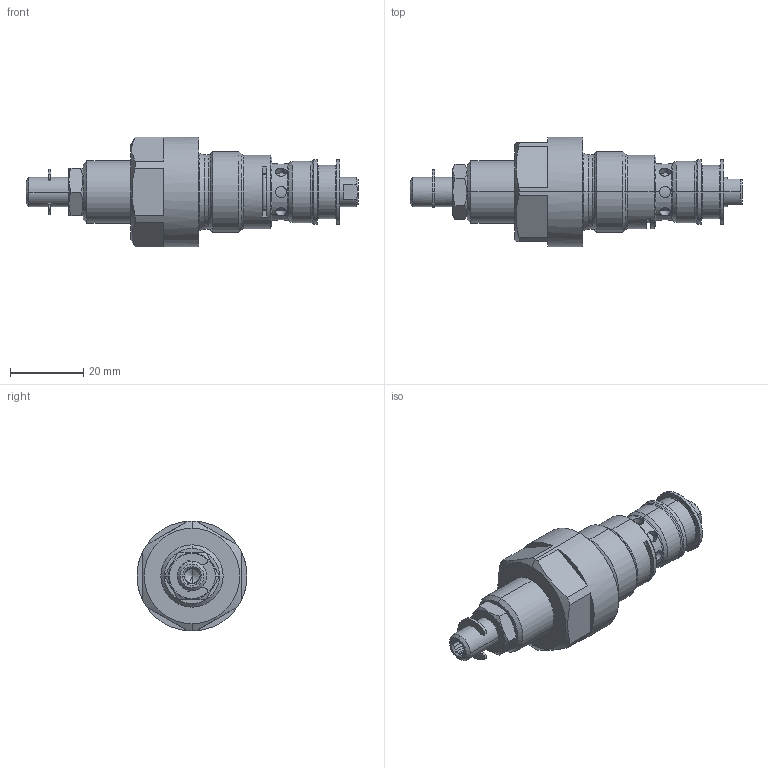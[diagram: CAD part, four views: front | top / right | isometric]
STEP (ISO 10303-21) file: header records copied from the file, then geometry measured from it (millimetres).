
FILE_DESCRIPTION (( 'STEP AP214' ), '1' );
FILE_NAME ('BASPM22-K9.STEP', '2021-03-05T10:19:20', ( '' ), ( '' ), 'SwSTEP 2.0', 'SolidWorks 2020', '' );
FILE_SCHEMA (( 'AUTOMOTIVE_DESIGN' ));
Length unit declared in the file: millimetre
Products named in the file (1): BASPM22-K9
Bounding box: 90.6 x 30 x 30 mm (x, y, z)
Volume: 26977.1 mm3; surface area: 7296.4 mm2
Topology: 1 solids, 3 shells, 191 faces, 453 edges, 276 vertices
Faces by surface type: cylinder 67, plane 64, cone 41, torus 19
Entity records: 8617 total; most frequent: CARTESIAN_POINT 2107, DIRECTION 944, ORIENTED_EDGE 894, EDGE_CURVE 447, AXIS2_PLACEMENT_3D 383, VERTEX_POINT 276, EDGE_LOOP 211, UNCERTAINTY_MEASURE_WITH_UNIT 194
